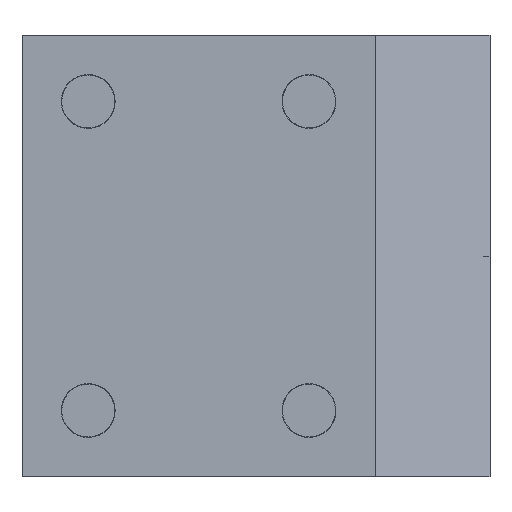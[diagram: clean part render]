
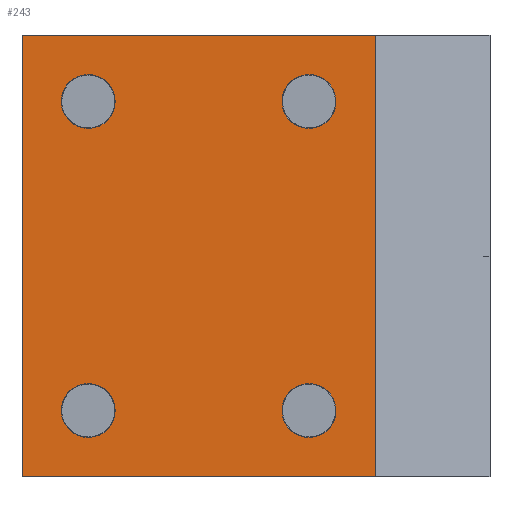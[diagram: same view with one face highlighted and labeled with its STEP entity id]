
A CAD part, front view. The second image highlights one B-rep face of the part: STEP entity #243.
In plain terms, the highlighted planar face has unit normal (0, -1, 0).
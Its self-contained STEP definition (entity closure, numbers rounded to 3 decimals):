
#243=ADVANCED_FACE('Pad.1',(#543,#544,#545,#546,#547),#548,.T.);
#543=FACE_OUTER_BOUND('',#934,.T.);
#544=FACE_BOUND('',#935,.T.);
#545=FACE_BOUND('',#936,.T.);
#546=FACE_BOUND('',#937,.T.);
#547=FACE_BOUND('',#938,.T.);
#548=PLANE('',#939);
#934=EDGE_LOOP('',(#1500,#1501,#1502,#1503));
#935=EDGE_LOOP('',(#1504,#1505,#1506,#1507));
#936=EDGE_LOOP('',(#1508,#1509,#1510,#1511));
#937=EDGE_LOOP('',(#1512,#1513,#1514,#1515));
#938=EDGE_LOOP('',(#1516,#1517,#1518,#1519));
#939=AXIS2_PLACEMENT_3D('',#1520,#1521,#1522);
#1500=ORIENTED_EDGE('',*,*,#2360,.T.);
#1501=ORIENTED_EDGE('',*,*,#2323,.T.);
#1502=ORIENTED_EDGE('',*,*,#2342,.F.);
#1503=ORIENTED_EDGE('',*,*,#2336,.F.);
#1504=ORIENTED_EDGE('',*,*,#2251,.F.);
#1505=ORIENTED_EDGE('',*,*,#2254,.F.);
#1506=ORIENTED_EDGE('',*,*,#2364,.F.);
#1507=ORIENTED_EDGE('',*,*,#2365,.F.);
#1508=ORIENTED_EDGE('',*,*,#2287,.F.);
#1509=ORIENTED_EDGE('',*,*,#2290,.F.);
#1510=ORIENTED_EDGE('',*,*,#2366,.F.);
#1511=ORIENTED_EDGE('',*,*,#2367,.F.);
#1512=ORIENTED_EDGE('',*,*,#2269,.F.);
#1513=ORIENTED_EDGE('',*,*,#2272,.F.);
#1514=ORIENTED_EDGE('',*,*,#2368,.F.);
#1515=ORIENTED_EDGE('',*,*,#2369,.F.);
#1516=ORIENTED_EDGE('',*,*,#2233,.F.);
#1517=ORIENTED_EDGE('',*,*,#2236,.F.);
#1518=ORIENTED_EDGE('',*,*,#2370,.F.);
#1519=ORIENTED_EDGE('',*,*,#2371,.F.);
#1520=CARTESIAN_POINT('',(3.,-53.0,25.0));
#1521=DIRECTION('',(-0.0,-1.0,-0.0));
#1522=DIRECTION('',(-1.0,0.0,0.0));
#2233=EDGE_CURVE('',#2652,#2648,#2654,.T.);
#2236=EDGE_CURVE('',#2656,#2652,#2659,.T.);
#2251=EDGE_CURVE('',#2682,#2678,#2684,.T.);
#2254=EDGE_CURVE('',#2686,#2682,#2689,.T.);
#2269=EDGE_CURVE('',#2712,#2708,#2714,.T.);
#2272=EDGE_CURVE('',#2716,#2712,#2719,.T.);
#2287=EDGE_CURVE('',#2742,#2738,#2744,.T.);
#2290=EDGE_CURVE('',#2746,#2742,#2749,.T.);
#2323=EDGE_CURVE('',#2803,#2801,#2804,.F.);
#2336=EDGE_CURVE('',#2822,#2824,#2825,.F.);
#2342=EDGE_CURVE('',#2824,#2801,#2832,.T.);
#2360=EDGE_CURVE('',#2822,#2803,#2856,.T.);
#2364=EDGE_CURVE('',#2861,#2686,#2862,.T.);
#2365=EDGE_CURVE('',#2678,#2861,#2863,.T.);
#2366=EDGE_CURVE('',#2864,#2746,#2865,.T.);
#2367=EDGE_CURVE('',#2738,#2864,#2866,.T.);
#2368=EDGE_CURVE('',#2867,#2716,#2868,.T.);
#2369=EDGE_CURVE('',#2708,#2867,#2869,.T.);
#2370=EDGE_CURVE('',#2870,#2656,#2871,.T.);
#2371=EDGE_CURVE('',#2648,#2870,#2872,.T.);
#2648=VERTEX_POINT('',#3271);
#2652=VERTEX_POINT('',#3276);
#2654=CIRCLE('',#3279,3.05);
#2656=VERTEX_POINT('',#3281);
#2659=CIRCLE('',#3285,3.05);
#2678=VERTEX_POINT('',#3307);
#2682=VERTEX_POINT('',#3312);
#2684=CIRCLE('',#3315,3.05);
#2686=VERTEX_POINT('',#3317);
#2689=CIRCLE('',#3321,3.05);
#2708=VERTEX_POINT('',#3343);
#2712=VERTEX_POINT('',#3348);
#2714=CIRCLE('',#3351,3.05);
#2716=VERTEX_POINT('',#3353);
#2719=CIRCLE('',#3357,3.05);
#2738=VERTEX_POINT('',#3379);
#2742=VERTEX_POINT('',#3384);
#2744=CIRCLE('',#3387,3.05);
#2746=VERTEX_POINT('',#3389);
#2749=CIRCLE('',#3393,3.05);
#2801=VERTEX_POINT('',#3478);
#2803=VERTEX_POINT('',#3481);
#2804=LINE('',#3482,#3483);
#2822=VERTEX_POINT('',#3508);
#2824=VERTEX_POINT('',#3511);
#2825=LINE('',#3512,#3513);
#2832=LINE('',#3523,#3524);
#2856=LINE('',#3552,#3553);
#2861=VERTEX_POINT('',#3558);
#2862=CIRCLE('',#3559,3.05);
#2863=CIRCLE('',#3560,3.05);
#2864=VERTEX_POINT('',#3561);
#2865=CIRCLE('',#3562,3.05);
#2866=CIRCLE('',#3563,3.05);
#2867=VERTEX_POINT('',#3564);
#2868=CIRCLE('',#3565,3.05);
#2869=CIRCLE('',#3566,3.05);
#2870=VERTEX_POINT('',#3567);
#2871=CIRCLE('',#3568,3.05);
#2872=CIRCLE('',#3569,3.05);
#3271=CARTESIAN_POINT('',(-26.45,-53.0,-17.5));
#3276=CARTESIAN_POINT('',(-32.177,-53.0,-18.962));
#3279=AXIS2_PLACEMENT_3D('',#3985,#3986,#3987);
#3281=CARTESIAN_POINT('',(-32.55,-53.0,-17.5));
#3285=AXIS2_PLACEMENT_3D('',#3989,#3990,#3991);
#3307=CARTESIAN_POINT('',(-1.45,-53.0,17.5));
#3312=CARTESIAN_POINT('',(-7.177,-53.0,16.038));
#3315=AXIS2_PLACEMENT_3D('',#4015,#4016,#4017);
#3317=CARTESIAN_POINT('',(-7.55,-53.0,17.5));
#3321=AXIS2_PLACEMENT_3D('',#4019,#4020,#4021);
#3343=CARTESIAN_POINT('',(-1.45,-53.0,-17.5));
#3348=CARTESIAN_POINT('',(-7.177,-53.0,-18.962));
#3351=AXIS2_PLACEMENT_3D('',#4045,#4046,#4047);
#3353=CARTESIAN_POINT('',(-7.55,-53.0,-17.5));
#3357=AXIS2_PLACEMENT_3D('',#4049,#4050,#4051);
#3379=CARTESIAN_POINT('',(-26.45,-53.0,17.5));
#3384=CARTESIAN_POINT('',(-32.177,-53.0,16.038));
#3387=AXIS2_PLACEMENT_3D('',#4075,#4076,#4077);
#3389=CARTESIAN_POINT('',(-32.55,-53.0,17.5));
#3393=AXIS2_PLACEMENT_3D('',#4079,#4080,#4081);
#3478=CARTESIAN_POINT('',(3.,-53.0,-25.0));
#3481=CARTESIAN_POINT('',(-37.0,-53.0,-25.0));
#3482=CARTESIAN_POINT('',(-17.0,-53.0,-25.0));
#3483=VECTOR('',#4123,1.0);
#3508=CARTESIAN_POINT('',(-37.0,-53.0,25.0));
#3511=CARTESIAN_POINT('',(3.,-53.0,25.0));
#3512=CARTESIAN_POINT('',(-17.0,-53.0,25.0));
#3513=VECTOR('',#4135,1.0);
#3523=CARTESIAN_POINT('',(3.,-53.0,0.0));
#3524=VECTOR('',#4142,1.0);
#3552=CARTESIAN_POINT('',(-37.0,-53.0,0.0));
#3553=VECTOR('',#4177,1.0);
#3558=CARTESIAN_POINT('',(-1.823,-53.0,18.962));
#3559=AXIS2_PLACEMENT_3D('',#4184,#4185,#4186);
#3560=AXIS2_PLACEMENT_3D('',#4187,#4188,#4189);
#3561=CARTESIAN_POINT('',(-26.823,-53.0,18.962));
#3562=AXIS2_PLACEMENT_3D('',#4190,#4191,#4192);
#3563=AXIS2_PLACEMENT_3D('',#4193,#4194,#4195);
#3564=CARTESIAN_POINT('',(-1.823,-53.0,-16.038));
#3565=AXIS2_PLACEMENT_3D('',#4196,#4197,#4198);
#3566=AXIS2_PLACEMENT_3D('',#4199,#4200,#4201);
#3567=CARTESIAN_POINT('',(-26.823,-53.0,-16.038));
#3568=AXIS2_PLACEMENT_3D('',#4202,#4203,#4204);
#3569=AXIS2_PLACEMENT_3D('',#4205,#4206,#4207);
#3985=CARTESIAN_POINT('',(-29.5,-53.0,-17.5));
#3986=DIRECTION('',(-0.0,-1.0,-0.0));
#3987=DIRECTION('',(-1.0,0.0,0.0));
#3989=CARTESIAN_POINT('',(-29.5,-53.0,-17.5));
#3990=DIRECTION('',(-0.0,-1.0,-0.0));
#3991=DIRECTION('',(-1.0,0.0,0.0));
#4015=CARTESIAN_POINT('',(-4.5,-53.0,17.5));
#4016=DIRECTION('',(-0.0,-1.0,-0.0));
#4017=DIRECTION('',(-1.0,0.0,0.0));
#4019=CARTESIAN_POINT('',(-4.5,-53.0,17.5));
#4020=DIRECTION('',(-0.0,-1.0,-0.0));
#4021=DIRECTION('',(-1.0,0.0,0.0));
#4045=CARTESIAN_POINT('',(-4.5,-53.0,-17.5));
#4046=DIRECTION('',(-0.0,-1.0,-0.0));
#4047=DIRECTION('',(-1.0,0.0,0.0));
#4049=CARTESIAN_POINT('',(-4.5,-53.0,-17.5));
#4050=DIRECTION('',(-0.0,-1.0,-0.0));
#4051=DIRECTION('',(-1.0,0.0,0.0));
#4075=CARTESIAN_POINT('',(-29.5,-53.0,17.5));
#4076=DIRECTION('',(-0.0,-1.0,-0.0));
#4077=DIRECTION('',(-1.0,0.0,0.0));
#4079=CARTESIAN_POINT('',(-29.5,-53.0,17.5));
#4080=DIRECTION('',(-0.0,-1.0,-0.0));
#4081=DIRECTION('',(-1.0,0.0,0.0));
#4123=DIRECTION('',(-1.0,0.0,0.0));
#4135=DIRECTION('',(-1.0,0.0,0.0));
#4142=DIRECTION('',(0.0,0.0,-1.0));
#4177=DIRECTION('',(0.0,0.0,-1.0));
#4184=CARTESIAN_POINT('',(-4.5,-53.0,17.5));
#4185=DIRECTION('',(-0.0,-1.0,-0.0));
#4186=DIRECTION('',(-1.0,0.0,0.0));
#4187=CARTESIAN_POINT('',(-4.5,-53.0,17.5));
#4188=DIRECTION('',(-0.0,-1.0,-0.0));
#4189=DIRECTION('',(-1.0,0.0,0.0));
#4190=CARTESIAN_POINT('',(-29.5,-53.0,17.5));
#4191=DIRECTION('',(-0.0,-1.0,-0.0));
#4192=DIRECTION('',(-1.0,0.0,0.0));
#4193=CARTESIAN_POINT('',(-29.5,-53.0,17.5));
#4194=DIRECTION('',(-0.0,-1.0,-0.0));
#4195=DIRECTION('',(-1.0,0.0,0.0));
#4196=CARTESIAN_POINT('',(-4.5,-53.0,-17.5));
#4197=DIRECTION('',(-0.0,-1.0,-0.0));
#4198=DIRECTION('',(-1.0,0.0,0.0));
#4199=CARTESIAN_POINT('',(-4.5,-53.0,-17.5));
#4200=DIRECTION('',(-0.0,-1.0,-0.0));
#4201=DIRECTION('',(-1.0,0.0,0.0));
#4202=CARTESIAN_POINT('',(-29.5,-53.0,-17.5));
#4203=DIRECTION('',(-0.0,-1.0,-0.0));
#4204=DIRECTION('',(-1.0,0.0,0.0));
#4205=CARTESIAN_POINT('',(-29.5,-53.0,-17.5));
#4206=DIRECTION('',(-0.0,-1.0,-0.0));
#4207=DIRECTION('',(-1.0,0.0,0.0));
